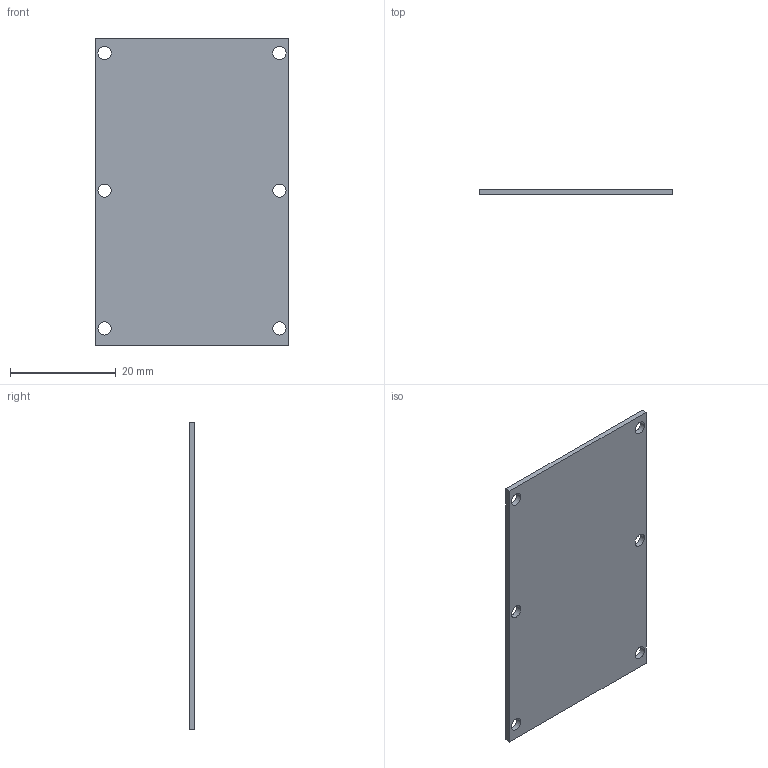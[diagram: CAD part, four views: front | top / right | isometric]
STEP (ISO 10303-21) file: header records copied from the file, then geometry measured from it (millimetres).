
FILE_DESCRIPTION((''),'2;1');
FILE_NAME('FSK_COVER','2020-03-13T',('g0715'),(''),'PRO/ENGINEER BY PARAMETRIC TECHNOLOGY CORPORATION, 2014090','PRO/ENGINEER BY PARAMETRIC TECHNOLOGY CORPORATION, 2014090','');
FILE_SCHEMA(('CONFIG_CONTROL_DESIGN'));
Length unit declared in the file: millimetre
Products named in the file (1): FSK_COVER
Bounding box: 36.5 x 1 x 58 mm (x, y, z)
Volume: 2087.5 mm3; surface area: 4411.2 mm2
Topology: 1 solids, 1 shells, 18 faces, 48 edges, 32 vertices
Faces by surface type: cylinder 12, plane 6
Entity records: 638 total; most frequent: DIRECTION 108, CARTESIAN_POINT 98, ORIENTED_EDGE 96, EDGE_CURVE 48, AXIS2_PLACEMENT_3D 42, VERTEX_POINT 32, EDGE_LOOP 30, VECTOR 24
